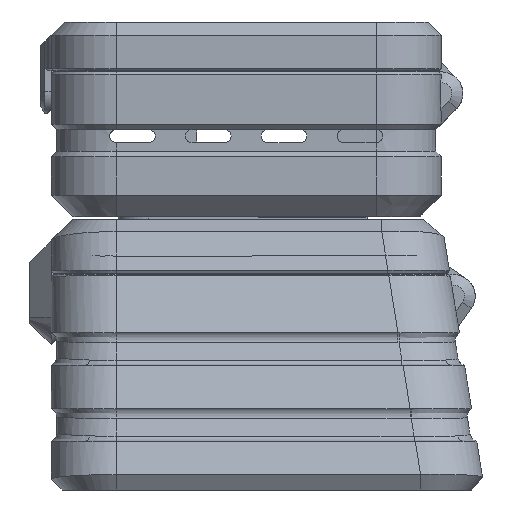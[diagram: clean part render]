
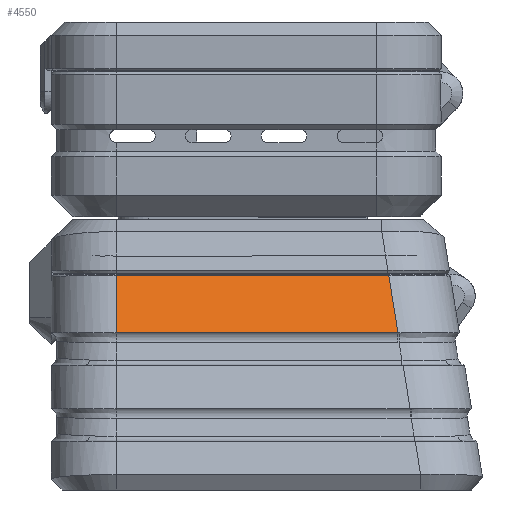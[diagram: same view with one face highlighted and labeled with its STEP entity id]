
A CAD part, left-side view. The second image highlights one B-rep face of the part: STEP entity #4550.
In plain terms, the highlighted planar face has unit normal (-0.906, 0, 0.423) as drawn and (0.423, 0, 0.906) by its records, which use the part's own axes.
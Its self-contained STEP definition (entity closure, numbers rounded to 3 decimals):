
#148 = LINE ( 'NONE', #38978, #8695 ) ;
#994 = CARTESIAN_POINT ( 'NONE',  ( -1.695, -14.601, 65.791 ) ) ;
#1598 = EDGE_CURVE ( 'NONE', #24826, #21328, #148, .T. ) ;
#2618 = CARTESIAN_POINT ( 'NONE',  ( 14.5, 14., 58.239 ) ) ;
#2725 = CARTESIAN_POINT ( 'NONE',  ( 0., -27.5, 65. ) ) ;
#3772 = LINE ( 'NONE', #994, #19924 ) ;
#4227 = DIRECTION ( 'NONE',  ( 0.897, 0.144, -0.418 ) ) ;
#4550 = ADVANCED_FACE ( 'NONE', ( #13736 ), #9363, .F. ) ;
#5978 = ORIENTED_EDGE ( 'NONE', *, *, #30774, .T. ) ;
#7525 = VERTEX_POINT ( 'NONE', #2618 ) ;
#8011 = LINE ( 'NONE', #34763, #41245 ) ;
#8695 = VECTOR ( 'NONE', #13243, 1000. ) ;
#9363 = PLANE ( 'NONE',  #21733 ) ;
#10973 = DIRECTION ( 'NONE',  ( 0., -1., 0. ) ) ;
#12496 = EDGE_CURVE ( 'NONE', #7525, #32969, #18470, .T. ) ;
#12616 = DIRECTION ( 'NONE',  ( -0.423, 0., -0.906 ) ) ;
#13243 = DIRECTION ( 'NONE',  ( 0., 1., 0. ) ) ;
#13736 = FACE_OUTER_BOUND ( 'NONE', #26107, .T. ) ;
#13946 = ORIENTED_EDGE ( 'NONE', *, *, #12496, .T. ) ;
#17444 = VECTOR ( 'NONE', #10973, 1000. ) ;
#18470 = LINE ( 'NONE', #30248, #17444 ) ;
#18828 = ORIENTED_EDGE ( 'NONE', *, *, #36165, .T. ) ;
#19924 = VECTOR ( 'NONE', #4227, 1000. ) ;
#21328 = VERTEX_POINT ( 'NONE', #31441 ) ;
#21733 = AXIS2_PLACEMENT_3D ( 'NONE', #2725, #12616, #35122 ) ;
#23143 = ORIENTED_EDGE ( 'NONE', *, *, #1598, .T. ) ;
#24826 = VERTEX_POINT ( 'NONE', #38794 ) ;
#26107 = EDGE_LOOP ( 'NONE', ( #5978, #23143, #18828, #13946 ) ) ;
#28410 = DIRECTION ( 'NONE',  ( -0.906, 0., 0.423 ) ) ;
#30248 = CARTESIAN_POINT ( 'NONE',  ( 14.5, -27.5, 58.239 ) ) ;
#30774 = EDGE_CURVE ( 'NONE', #32969, #24826, #3772, .T. ) ;
#31441 = CARTESIAN_POINT ( 'NONE',  ( 19.785, 14., 55.774 ) ) ;
#32969 = VERTEX_POINT ( 'NONE', #36015 ) ;
#34763 = CARTESIAN_POINT ( 'NONE',  ( 0., 14., 65. ) ) ;
#35122 = DIRECTION ( 'NONE',  ( -0.906, 0., 0.423 ) ) ;
#36015 = CARTESIAN_POINT ( 'NONE',  ( 14.5, -12.009, 58.239 ) ) ;
#36165 = EDGE_CURVE ( 'NONE', #21328, #7525, #8011, .T. ) ;
#38794 = CARTESIAN_POINT ( 'NONE',  ( 19.785, -11.164, 55.774 ) ) ;
#38978 = CARTESIAN_POINT ( 'NONE',  ( 19.785, -27.5, 55.774 ) ) ;
#41245 = VECTOR ( 'NONE', #28410, 1000. ) ;
